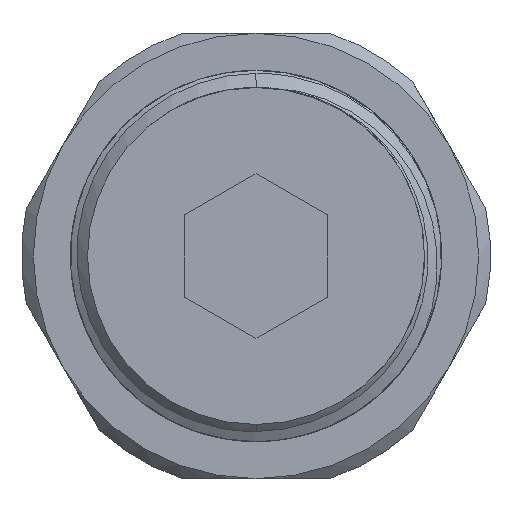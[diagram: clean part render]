
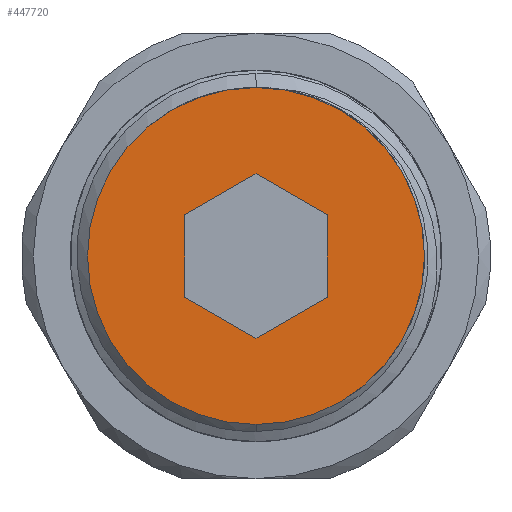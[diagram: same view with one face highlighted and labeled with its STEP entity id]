
A CAD part, front view. The second image highlights one B-rep face of the part: STEP entity #447720.
In plain terms, the highlighted planar face has unit normal (0, -1, 0).
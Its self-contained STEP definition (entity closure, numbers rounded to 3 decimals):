
#8977 = CARTESIAN_POINT ( 'NONE',  ( 0., 0., 5.543 ) ) ;
#10751 = DIRECTION ( 'NONE',  ( -0.866, 0., -0.5 ) ) ;
#22289 = CARTESIAN_POINT ( 'NONE',  ( 0., 0., 11.35 ) ) ;
#23220 = LINE ( 'NONE', #74973, #447306 ) ;
#24003 = VERTEX_POINT ( 'NONE', #178652 ) ;
#27029 = CARTESIAN_POINT ( 'NONE',  ( -4.8, 0., 2.771 ) ) ;
#35030 = VERTEX_POINT ( 'NONE', #517064 ) ;
#64708 = CARTESIAN_POINT ( 'NONE',  ( 0., 0., 0. ) ) ;
#74973 = CARTESIAN_POINT ( 'NONE',  ( -4.8, 0., -2.771 ) ) ;
#78091 = VERTEX_POINT ( 'NONE', #516252 ) ;
#89317 = DIRECTION ( 'NONE',  ( -0.866, 0., 0.5 ) ) ;
#106002 = DIRECTION ( 'NONE',  ( 0., 0., 1. ) ) ;
#110142 = ORIENTED_EDGE ( 'NONE', *, *, #508622, .F. ) ;
#115672 = FACE_BOUND ( 'NONE', #248259, .T. ) ;
#118168 = EDGE_LOOP ( 'NONE', ( #188754, #326007 ) ) ;
#123479 = LINE ( 'NONE', #414878, #329079 ) ;
#141027 = CARTESIAN_POINT ( 'NONE',  ( 4.8, 0., -2.771 ) ) ;
#141894 = EDGE_CURVE ( 'NONE', #427924, #35030, #299927, .T. ) ;
#142009 = ORIENTED_EDGE ( 'NONE', *, *, #259373, .F. ) ;
#153334 = CIRCLE ( 'NONE', #470902, 11.35 ) ;
#157078 = CARTESIAN_POINT ( 'NONE',  ( 0., 0., 5.543 ) ) ;
#161897 = ORIENTED_EDGE ( 'NONE', *, *, #369251, .F. ) ;
#164408 = ORIENTED_EDGE ( 'NONE', *, *, #315847, .F. ) ;
#168918 = VECTOR ( 'NONE', #10751, 1000. ) ;
#171278 = CARTESIAN_POINT ( 'NONE',  ( 4.8, 0., -2.771 ) ) ;
#178652 = CARTESIAN_POINT ( 'NONE',  ( 0., 0., -11.35 ) ) ;
#181803 = LINE ( 'NONE', #8977, #168918 ) ;
#188754 = ORIENTED_EDGE ( 'NONE', *, *, #190041, .F. ) ;
#189751 = EDGE_CURVE ( 'NONE', #208865, #24003, #275483, .T. ) ;
#190041 = EDGE_CURVE ( 'NONE', #24003, #208865, #153334, .T. ) ;
#197359 = DIRECTION ( 'NONE',  ( 0., 1., 0. ) ) ;
#208865 = VERTEX_POINT ( 'NONE', #22289 ) ;
#210107 = LINE ( 'NONE', #252749, #415734 ) ;
#226157 = VERTEX_POINT ( 'NONE', #234213 ) ;
#234213 = CARTESIAN_POINT ( 'NONE',  ( 0., 0., -5.543 ) ) ;
#245636 = VECTOR ( 'NONE', #434869, 1000. ) ;
#248259 = EDGE_LOOP ( 'NONE', ( #161897, #110142, #439876, #142009, #164408, #279294 ) ) ;
#252749 = CARTESIAN_POINT ( 'NONE',  ( 4.8, 0., 2.771 ) ) ;
#259373 = EDGE_CURVE ( 'NONE', #226157, #427924, #123479, .T. ) ;
#275483 = CIRCLE ( 'NONE', #415792, 11.35 ) ;
#279294 = ORIENTED_EDGE ( 'NONE', *, *, #372421, .F. ) ;
#290964 = DIRECTION ( 'NONE',  ( 0.866, 0., 0.5 ) ) ;
#295174 = DIRECTION ( 'NONE',  ( 0., 0., 1. ) ) ;
#299927 = LINE ( 'NONE', #171278, #492587 ) ;
#315847 = EDGE_CURVE ( 'NONE', #78091, #226157, #23220, .T. ) ;
#326007 = ORIENTED_EDGE ( 'NONE', *, *, #189751, .F. ) ;
#326471 = PLANE ( 'NONE',  #432602 ) ;
#329079 = VECTOR ( 'NONE', #290964, 1000. ) ;
#352030 = DIRECTION ( 'NONE',  ( 0., 1., 0. ) ) ;
#362246 = DIRECTION ( 'NONE',  ( 0.866, 0., -0.5 ) ) ;
#367685 = LINE ( 'NONE', #393462, #245636 ) ;
#367745 = DIRECTION ( 'NONE',  ( 0., 0., 1. ) ) ;
#369251 = EDGE_CURVE ( 'NONE', #449463, #511926, #181803, .T. ) ;
#372421 = EDGE_CURVE ( 'NONE', #511926, #78091, #367685, .T. ) ;
#393462 = CARTESIAN_POINT ( 'NONE',  ( -4.8, 0., 2.771 ) ) ;
#414878 = CARTESIAN_POINT ( 'NONE',  ( 0., 0., -5.543 ) ) ;
#415734 = VECTOR ( 'NONE', #89317, 1000. ) ;
#415792 = AXIS2_PLACEMENT_3D ( 'NONE', #64708, #352030, #106002 ) ;
#427924 = VERTEX_POINT ( 'NONE', #141027 ) ;
#432602 = AXIS2_PLACEMENT_3D ( 'NONE', #531283, #488202, #367745 ) ;
#434869 = DIRECTION ( 'NONE',  ( 0., 0., -1. ) ) ;
#439876 = ORIENTED_EDGE ( 'NONE', *, *, #141894, .F. ) ;
#443480 = CARTESIAN_POINT ( 'NONE',  ( 0., 0., 0. ) ) ;
#447306 = VECTOR ( 'NONE', #362246, 1000. ) ;
#447720 = ADVANCED_FACE ( 'NONE', ( #115672, #456558 ), #326471, .F. ) ;
#449463 = VERTEX_POINT ( 'NONE', #157078 ) ;
#456558 = FACE_OUTER_BOUND ( 'NONE', #118168, .T. ) ;
#470902 = AXIS2_PLACEMENT_3D ( 'NONE', #443480, #197359, #484769 ) ;
#484769 = DIRECTION ( 'NONE',  ( 0., 0., 1. ) ) ;
#488202 = DIRECTION ( 'NONE',  ( 0., 1., 0. ) ) ;
#492587 = VECTOR ( 'NONE', #295174, 1000. ) ;
#508622 = EDGE_CURVE ( 'NONE', #35030, #449463, #210107, .T. ) ;
#511926 = VERTEX_POINT ( 'NONE', #27029 ) ;
#516252 = CARTESIAN_POINT ( 'NONE',  ( -4.8, 0., -2.771 ) ) ;
#517064 = CARTESIAN_POINT ( 'NONE',  ( 4.8, 0., 2.771 ) ) ;
#531283 = CARTESIAN_POINT ( 'NONE',  ( 0., 0., 0. ) ) ;
